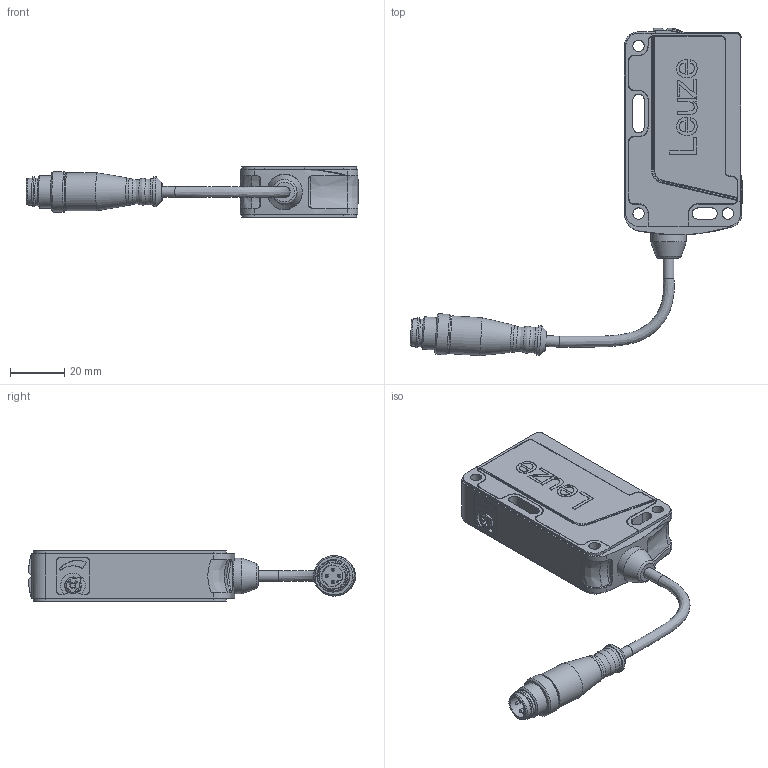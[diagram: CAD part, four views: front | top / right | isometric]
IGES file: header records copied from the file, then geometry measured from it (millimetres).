
Global section: file name: E:\temp\br46b_kabel.igs; preprocessor: I-DEAS 3D IGES Translator 11; date: 20060313.085951; units: millimetre
Bounding box: 122.74 x 120.99 x 18.5 mm (x, y, z)
Volume: 61236.3 mm3; surface area: 16814.9 mm2
Topology: 1 solids, 1 shells, 496 faces, 1331 edges, 869 vertices
Faces by surface type: bspline 496
